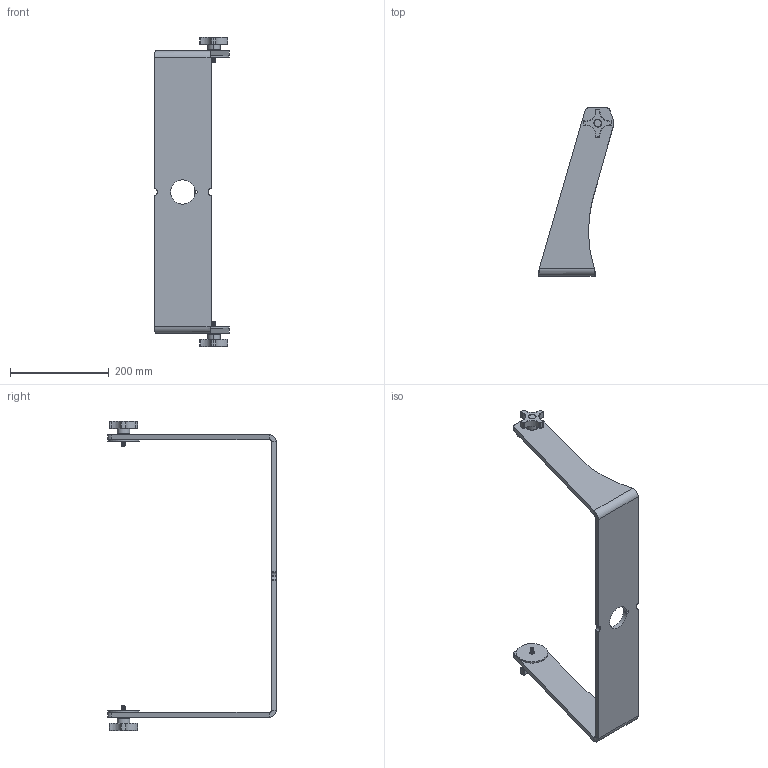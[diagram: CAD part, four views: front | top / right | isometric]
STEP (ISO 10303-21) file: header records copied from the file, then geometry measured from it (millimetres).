
FILE_DESCRIPTION (( 'STEP AP214' ), '1' );
FILE_NAME ('Yoke for 22 inch Universal Mount Monitor, YK22.STEP', '2017-07-18T14:04:54', ( '' ), ( '' ), 'SwSTEP 2.0', 'SolidWorks 2017', '' );
FILE_SCHEMA (( 'AUTOMOTIVE_DESIGN' ));
Length unit declared in the file: inch
Products named in the file (5): Yoke for 22 inch Universal Mount Monitor, YK22; Knob, 30053; Rubber Washer, 10177; Bushing, 30500; All Yoke Configurations, YKxx_YK22
Assembly tree (7 placements, depth 2):
  Yoke for 22 inch Universal Mount Monitor, YK22
    All Yoke Configurations, YKxx_YK22
    Bushing, 30500  x2
    Rubber Washer, 10177  x2
    Knob, 30053  x2
Bounding box: 151.52 x 341.02 x 625.5 mm (x, y, z)
Volume: 1123174.2 mm3; surface area: 277339.8 mm2
Topology: 7 solids, 7 shells, 567 faces, 1225 edges, 664 vertices
Faces by surface type: cylinder 257, cone 176, torus 48, plane 42, sphere 40, bspline 4
Entity records: 11008 total; most frequent: CARTESIAN_POINT 4122, DIRECTION 1480, ORIENTED_EDGE 1334, EDGE_CURVE 667, AXIS2_PLACEMENT_3D 601, VERTEX_POINT 369, EDGE_LOOP 324, ADVANCED_FACE 310
